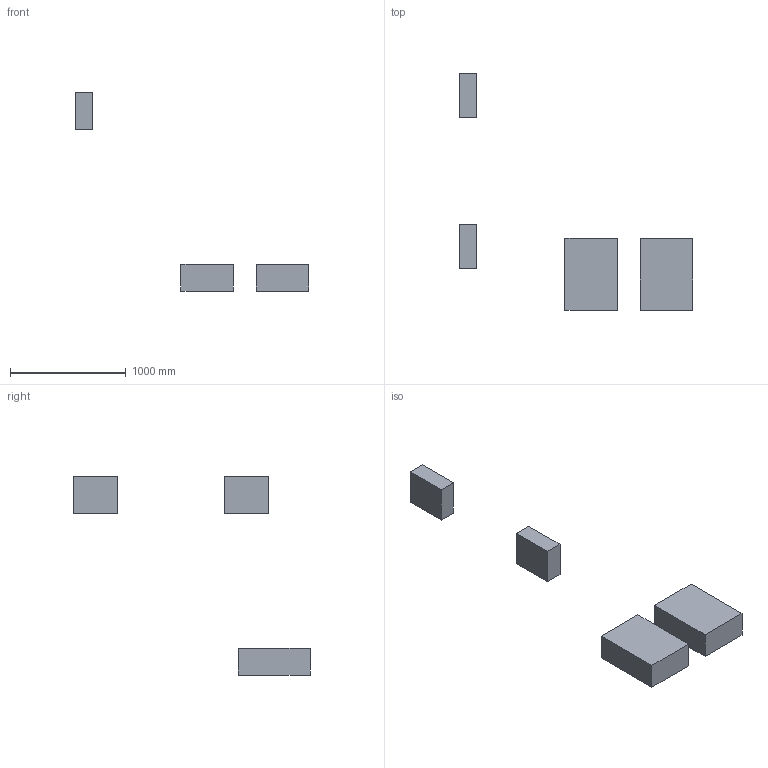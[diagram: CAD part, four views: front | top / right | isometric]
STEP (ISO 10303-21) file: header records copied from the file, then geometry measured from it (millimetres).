
FILE_DESCRIPTION(('FreeCAD Model'),'2;1');
FILE_NAME('Open CASCADE Shape Model','2026-10-28T17:35:04',('Author'),( ''),'Open CASCADE STEP processor 7.8','FreeCAD','Unknown');
FILE_SCHEMA(('AUTOMOTIVE_DESIGN { 1 0 10303 214 1 1 1 1 }'));
Length unit declared in the file: millimetre
Products named in the file (5): Haven1_Public_Reference_R1; Vast Control Unit envelope; Communications electronics envelope; Crew control panel 1; Crew control panel 2
Assembly tree (4 placements, depth 2):
  Haven1_Public_Reference_R1
    Vast Control Unit envelope
    Communications electronics envelope
    Crew control panel 1
    Crew control panel 2
Bounding box: 2010 x 2040 x 1710 mm (x, y, z)
Volume: 164820000 mm3; surface area: 3006800 mm2
Topology: 4 solids, 4 shells, 24 faces, 48 edges, 32 vertices
Faces by surface type: plane 24
Entity records: 688 total; most frequent: CARTESIAN_POINT 109, DIRECTION 106, ORIENTED_EDGE 96, EDGE_CURVE 48, LINE 48, VECTOR 48, VERTEX_POINT 32, AXIS2_PLACEMENT_3D 29
